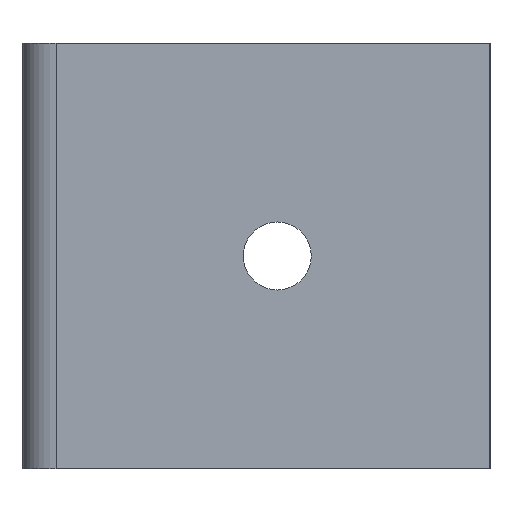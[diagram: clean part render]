
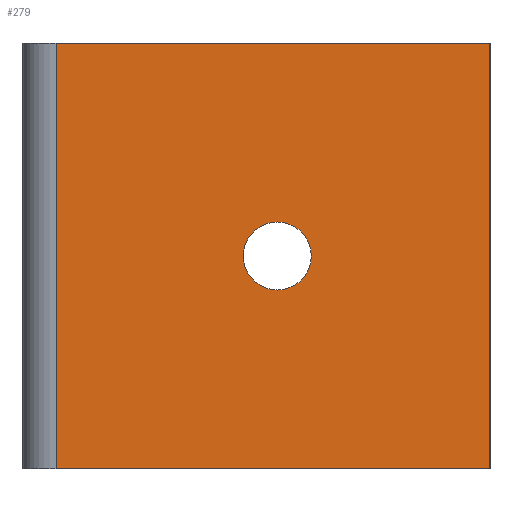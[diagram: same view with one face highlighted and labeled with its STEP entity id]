
A CAD part, left-side view. The second image highlights one B-rep face of the part: STEP entity #279.
In plain terms, the highlighted planar face has unit normal (-1, 0, 0).
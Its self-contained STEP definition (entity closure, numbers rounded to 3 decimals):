
#210=CARTESIAN_POINT('',(-118.,-2.,25.));
#211=VERTEX_POINT('',#210);
#220=CARTESIAN_POINT('',(-118.,-2.,0.));
#221=VERTEX_POINT('',#220);
#229=CARTESIAN_POINT('',(-118.,-2.,0.));
#230=DIRECTION('',(0.,0.,1.));
#231=VECTOR('',#230,250.);
#232=LINE('',#229,#231);
#233=EDGE_CURVE('',#221,#211,#232,.T.);
#238=CARTESIAN_POINT('',(-118.,-13.75,0.));
#239=DIRECTION('',(-1.,-0.,0.));
#240=DIRECTION('',(0.,-1.,0.));
#241=AXIS2_PLACEMENT_3D('',#238,#239,#240);
#242=PLANE('',#241);
#243=ORIENTED_EDGE('',*,*,#233,.F.);
#244=CARTESIAN_POINT('',(-118.,-27.5,0.));
#245=VERTEX_POINT('',#244);
#246=CARTESIAN_POINT('',(-118.,-27.5,0.));
#247=DIRECTION('',(-0.,1.,0.));
#248=VECTOR('',#247,255.);
#249=LINE('',#246,#248);
#250=EDGE_CURVE('',#245,#221,#249,.T.);
#251=ORIENTED_EDGE('',*,*,#250,.F.);
#252=CARTESIAN_POINT('',(-118.,-27.5,25.));
#253=VERTEX_POINT('',#252);
#254=CARTESIAN_POINT('',(-118.,-27.5,0.));
#255=DIRECTION('',(0.,0.,1.));
#256=VECTOR('',#255,250.);
#257=LINE('',#254,#256);
#258=EDGE_CURVE('',#245,#253,#257,.T.);
#259=ORIENTED_EDGE('',*,*,#258,.T.);
#260=CARTESIAN_POINT('',(-118.,-27.5,25.));
#261=DIRECTION('',(-0.,1.,0.));
#262=VECTOR('',#261,255.);
#263=LINE('',#260,#262);
#264=EDGE_CURVE('',#253,#211,#263,.T.);
#265=ORIENTED_EDGE('',*,*,#264,.T.);
#266=EDGE_LOOP('',(#243,#251,#259,#265));
#267=FACE_BOUND('',#266,.T.);
#268=CARTESIAN_POINT('',(-118.,-15.,14.5));
#269=VERTEX_POINT('',#268);
#270=CARTESIAN_POINT('',(-118.,-15.,12.5));
#271=DIRECTION('',(1.,0.,0.));
#272=DIRECTION('',(0.,0.,-1.));
#273=AXIS2_PLACEMENT_3D('',#270,#271,#272);
#274=CIRCLE('',#273,2.);
#275=EDGE_CURVE('',#269,#269,#274,.T.);
#276=ORIENTED_EDGE('',*,*,#275,.T.);
#277=EDGE_LOOP('',(#276));
#278=FACE_BOUND('',#277,.T.);
#279=ADVANCED_FACE('',(#267,#278),#242,.T.);
